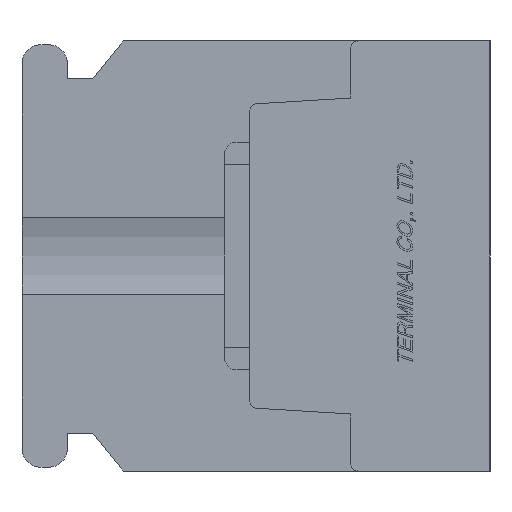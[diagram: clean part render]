
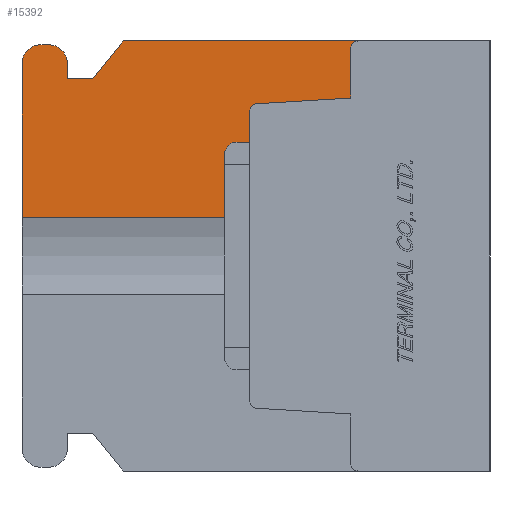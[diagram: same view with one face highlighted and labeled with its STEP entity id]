
A CAD part, left-side view. The second image highlights one B-rep face of the part: STEP entity #15392.
In plain terms, the highlighted planar face has unit normal (-1, 0, 0).
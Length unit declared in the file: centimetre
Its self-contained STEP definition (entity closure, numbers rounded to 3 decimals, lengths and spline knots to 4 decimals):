
#1486=VECTOR('',#17825,1.);
#1488=VECTOR('',#17828,1.);
#1490=VECTOR('',#17835,1.);
#1491=VECTOR('',#17836,1.);
#1492=VECTOR('',#17837,1.);
#1493=VECTOR('',#17838,1.);
#1494=VECTOR('',#17839,1.);
#1495=VECTOR('',#17842,1.);
#1496=VECTOR('',#17845,1.);
#1497=VECTOR('',#17846,1.);
#3173=LINE('',#23233,#1486);
#3175=LINE('',#23237,#1488);
#3177=LINE('',#23243,#1490);
#3178=LINE('',#23245,#1491);
#3179=LINE('',#23247,#1492);
#3180=LINE('',#23249,#1493);
#3181=LINE('',#23251,#1494);
#3182=LINE('',#23255,#1495);
#3183=LINE('',#23259,#1496);
#3184=LINE('',#23261,#1497);
#4862=VERTEX_POINT('',#23226);
#4863=VERTEX_POINT('',#23228);
#4864=VERTEX_POINT('',#23232);
#4865=VERTEX_POINT('',#23236);
#4866=VERTEX_POINT('',#23240);
#4867=VERTEX_POINT('',#23244);
#4868=VERTEX_POINT('',#23246);
#4869=VERTEX_POINT('',#23248);
#4870=VERTEX_POINT('',#23250);
#4871=VERTEX_POINT('',#23252);
#4872=VERTEX_POINT('',#23254);
#4873=VERTEX_POINT('',#23256);
#4874=VERTEX_POINT('',#23258);
#4875=VERTEX_POINT('',#23260);
#5673=CIRCLE('',#26086,0.03);
#5674=CIRCLE('',#26090,0.03);
#5675=CIRCLE('',#26092,0.075);
#5676=CIRCLE('',#26093,0.075);
#7166=EDGE_CURVE('',#4863,#4862,#5673,.T.);
#7169=EDGE_CURVE('',#4862,#4864,#3173,.T.);
#7171=EDGE_CURVE('',#4864,#4865,#3175,.T.);
#7173=EDGE_CURVE('',#4865,#4866,#5674,.T.);
#7174=EDGE_CURVE('',#4867,#4863,#3177,.T.);
#7175=EDGE_CURVE('',#4868,#4866,#3178,.T.);
#7176=EDGE_CURVE('',#4869,#4868,#3179,.T.);
#7177=EDGE_CURVE('',#4870,#4869,#3180,.T.);
#7178=EDGE_CURVE('',#4871,#4870,#3181,.T.);
#7179=EDGE_CURVE('',#4872,#4871,#5675,.T.);
#7180=EDGE_CURVE('',#4873,#4872,#3182,.T.);
#7181=EDGE_CURVE('',#4874,#4873,#5676,.T.);
#7182=EDGE_CURVE('',#4875,#4874,#3183,.T.);
#7183=EDGE_CURVE('',#4875,#4867,#3184,.T.);
#10669=ORIENTED_EDGE('',*,*,#7174,.T.);
#10670=ORIENTED_EDGE('',*,*,#7166,.T.);
#10671=ORIENTED_EDGE('',*,*,#7169,.T.);
#10672=ORIENTED_EDGE('',*,*,#7171,.T.);
#10673=ORIENTED_EDGE('',*,*,#7173,.T.);
#10674=ORIENTED_EDGE('',*,*,#7175,.F.);
#10675=ORIENTED_EDGE('',*,*,#7176,.F.);
#10676=ORIENTED_EDGE('',*,*,#7177,.F.);
#10677=ORIENTED_EDGE('',*,*,#7178,.F.);
#10678=ORIENTED_EDGE('',*,*,#7179,.F.);
#10679=ORIENTED_EDGE('',*,*,#7180,.F.);
#10680=ORIENTED_EDGE('',*,*,#7181,.F.);
#10681=ORIENTED_EDGE('',*,*,#7182,.F.);
#10682=ORIENTED_EDGE('',*,*,#7183,.T.);
#13518=EDGE_LOOP('',(#10669,#10670,#10671,#10672,#10673,#10674,#10675,#10676,
#10677,#10678,#10679,#10680,#10681,#10682));
#14482=FACE_BOUND('',#13518,.T.);
#15392=ADVANCED_FACE('',(#14482),#16119,.F.);
#16119=PLANE('',#26091);
#17820=DIRECTION('',(1.,0.,0.));
#17821=DIRECTION('',(0.,0.,0.03));
#17825=DIRECTION('',(0.,-0.998,0.061));
#17828=DIRECTION('',(0.,0.,1.));
#17832=DIRECTION('',(1.,0.,0.));
#17833=DIRECTION('',(0.,0.,0.03));
#17834=DIRECTION('',(1.,0.,0.));
#17835=DIRECTION('',(0.,0.,1.));
#17836=DIRECTION('',(0.,-1.,0.));
#17837=DIRECTION('',(0.,-0.625,0.781));
#17838=DIRECTION('',(0.,-1.,0.));
#17839=DIRECTION('',(0.,0.,-1.));
#17840=DIRECTION('',(1.,0.,0.));
#17841=DIRECTION('',(0.,0.,-0.075));
#17842=DIRECTION('',(0.,-1.,0.));
#17843=DIRECTION('',(1.,0.,0.));
#17844=DIRECTION('',(0.,0.,-0.075));
#17845=DIRECTION('',(0.,0.,1.));
#17846=DIRECTION('',(0.,-1.,0.));
#23226=CARTESIAN_POINT('',(-1.1,0.9218,0.6017));
#23227=CARTESIAN_POINT('',(-1.1,0.92,0.5718));
#23228=CARTESIAN_POINT('',(-1.1,0.95,0.5718));
#23232=CARTESIAN_POINT('',(-1.1,0.55,0.6245));
#23233=CARTESIAN_POINT('',(-1.1,0.859,0.6056));
#23236=CARTESIAN_POINT('',(-1.1,0.55,0.82));
#23237=CARTESIAN_POINT('',(-1.1,0.55,0.3611));
#23240=CARTESIAN_POINT('',(-1.1,0.52,0.85));
#23241=CARTESIAN_POINT('',(-1.1,0.52,0.82));
#23242=CARTESIAN_POINT('',(-1.1,0.9454,0.));
#23243=CARTESIAN_POINT('',(-1.1,0.95,0.));
#23244=CARTESIAN_POINT('',(-1.1,0.95,0.1521));
#23245=CARTESIAN_POINT('',(-1.1,1.45,0.85));
#23246=CARTESIAN_POINT('',(-1.1,1.45,0.85));
#23247=CARTESIAN_POINT('',(-1.1,1.57,0.7));
#23248=CARTESIAN_POINT('',(-1.1,1.57,0.7));
#23249=CARTESIAN_POINT('',(-1.1,1.67,0.7));
#23250=CARTESIAN_POINT('',(-1.1,1.67,0.7));
#23251=CARTESIAN_POINT('',(-1.1,1.67,0.76));
#23252=CARTESIAN_POINT('',(-1.1,1.67,0.76));
#23253=CARTESIAN_POINT('',(-1.1,1.745,0.76));
#23254=CARTESIAN_POINT('',(-1.1,1.745,0.835));
#23255=CARTESIAN_POINT('',(-1.1,1.775,0.835));
#23256=CARTESIAN_POINT('',(-1.1,1.775,0.835));
#23257=CARTESIAN_POINT('',(-1.1,1.775,0.76));
#23258=CARTESIAN_POINT('',(-1.1,1.85,0.76));
#23259=CARTESIAN_POINT('',(-1.1,1.85,-0.76));
#23260=CARTESIAN_POINT('',(-1.1,1.85,0.1521));
#23261=CARTESIAN_POINT('',(-1.1,1.4,0.1521));
#26086=AXIS2_PLACEMENT_3D('',#23227,#17820,#17821);
#26090=AXIS2_PLACEMENT_3D('',#23241,#17832,#17833);
#26091=AXIS2_PLACEMENT_3D('',#23242,#17834,$);
#26092=AXIS2_PLACEMENT_3D('',#23253,#17840,#17841);
#26093=AXIS2_PLACEMENT_3D('',#23257,#17843,#17844);
